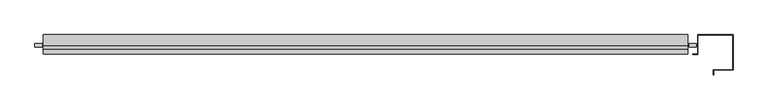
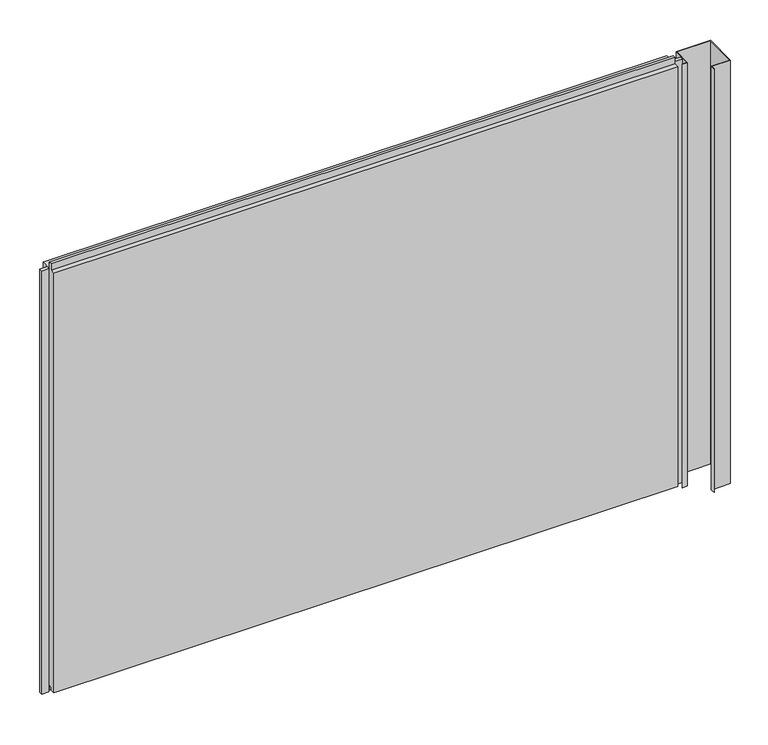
"""IFC4 building model written with IfcOpenShell, lengths in millimetres: plate geometry, Trimo_Qbiss Screen_Normal Panel-HORIZONTAL : HR - FB."""

import ifcopenshell
import ifcopenshell.guid

model = None  # the IFC model being written
_history = None  # IfcOwnerHistory: only IFC2X3 demands one
_inside = {}  # id of a spatial element -> (the spatial element, [elements in it])
_under = {}  # id of a project, library or spatial element -> (it, [spatial elements below it])
_declared = {}  # id of a project -> (the project, [libraries it declares])
_typed = {}  # id of a type object -> (the type object, [elements of that type])
_made_of = {}  # id of a material, layer set ... -> (it, [elements and type objects made of it])


def new_model(schema):
    """Start an empty IFC model of exactly this schema.

    Asked for "IFC4X3", IfcOpenShell would pick the latest addendum, in which some entities
    have other attributes; the version numbers below select the first issue.
    IFC2X3 requires an IfcOwnerHistory on every rooted entity: one is made here for all.
    """
    global model, _history
    if schema == "IFC4X3":
        model = ifcopenshell.file(schema_version=(4, 3, 0, 0))
    else:
        model = ifcopenshell.file(schema=schema)
    _inside.clear()
    _under.clear()
    _declared.clear()
    _typed.clear()
    _made_of.clear()
    _history = None
    if model.schema == "IFC2X3":
        org = make("IfcOrganization", Name="unknown")
        user = make(
            "IfcPersonAndOrganization",
            ThePerson=make("IfcPerson", FamilyName="unknown"),
            TheOrganization=org,
        )
        app = make(
            "IfcApplication",
            ApplicationDeveloper=org,
            Version="unknown",
            ApplicationFullName="unknown",
            ApplicationIdentifier="unknown",
        )
        _history = make(
            "IfcOwnerHistory",
            OwningUser=user,
            OwningApplication=app,
            ChangeAction="ADDED",
            CreationDate=0,
        )
    return model


def make(cls, **values):
    """One entity of the class cls with the attributes given. An attribute that is None is left unset."""
    return model.create_entity(
        cls, **{name: value for name, value in values.items() if value is not None}
    )


def rooted(cls, **values):
    """An entity with a GlobalId (a new one), such as an element, a storey or a relation."""
    return make(cls, GlobalId=ifcopenshell.guid.new(), OwnerHistory=_history, **values)


def si_unit(unit_type, name, prefix=None):
    """IfcSIUnit, for example si_unit("LENGTHUNIT", "METRE", prefix="MILLI")."""
    return make("IfcSIUnit", UnitType=unit_type, Prefix=prefix, Name=name)


def assignment(units):
    """IfcUnitAssignment: the units of a project."""
    return None if units is None else make("IfcUnitAssignment", Units=units)


def point(xyz):
    """IfcCartesianPoint."""
    return None if xyz is None else make("IfcCartesianPoint", Coordinates=xyz)


def direction(xyz):
    """IfcDirection."""
    return None if xyz is None else make("IfcDirection", DirectionRatios=xyz)


def frame(location, z_axis=None, x_axis=None):
    """IfcAxis2Placement3D, a coordinate frame: its origin and axes. An axis left out is left unset."""
    return make(
        "IfcAxis2Placement3D",
        Location=point(location),
        Axis=direction(z_axis),
        RefDirection=direction(x_axis),
    )


def origin():
    """The frame at (0, 0, 0) with its axes left unset."""
    return frame((0.0, 0.0, 0.0))


def place(relative_to, where):
    """IfcLocalPlacement: puts the frame where relative to a parent placement (None: the world)."""
    return make(
        "IfcLocalPlacement", PlacementRelTo=relative_to, RelativePlacement=where
    )


def context(
    kind, dimensions, precision=None, world=None, true_north=None, identifier=None
):
    """IfcGeometricRepresentationContext, for example the 3D "Model" context."""
    return make(
        "IfcGeometricRepresentationContext",
        ContextIdentifier=identifier,
        ContextType=kind,
        CoordinateSpaceDimension=dimensions,
        Precision=precision,
        WorldCoordinateSystem=world,
        TrueNorth=true_north,
    )


def project(units=None, contexts=None):
    """IfcProject with its units and contexts."""
    return rooted(
        "IfcProject",
        Name="project",
        RepresentationContexts=contexts,
        UnitsInContext=assignment(units),
    )


def spatial(cls, under=None, at=None, **own):
    """A site, building, storey or space (cls), placed at a placement, below another one or the project."""
    s = rooted(cls, ObjectPlacement=at, **own)
    if under is not None:
        _under.setdefault(under.id(), (under, []))[1].append(s)
    return s


def polyline(points):
    """IfcPolyline through the points."""
    return make("IfcPolyline", Points=[point(p) for p in points])


def outline(outer, holes=None, kind="AREA"):
    """IfcArbitraryClosedProfileDef: a profile drawn as a closed curve; with holes, ...WithVoids."""
    if holes is None:
        return make("IfcArbitraryClosedProfileDef", ProfileType=kind, OuterCurve=outer)
    return make(
        "IfcArbitraryProfileDefWithVoids",
        ProfileType=kind,
        OuterCurve=outer,
        InnerCurves=holes,
    )


def extrude(swept, where, along, depth):
    """IfcExtrudedAreaSolid: the profile swept, set in the frame where, extruded along a direction by depth."""
    return make(
        "IfcExtrudedAreaSolid",
        SweptArea=swept,
        Position=where,
        ExtrudedDirection=direction(along),
        Depth=depth,
    )


def shape(context_of_items, identifier, shape_type, items):
    """IfcShapeRepresentation: the items that make up one representation, for example the "Body"."""
    return make(
        "IfcShapeRepresentation",
        ContextOfItems=context_of_items,
        RepresentationIdentifier=identifier,
        RepresentationType=shape_type,
        Items=items,
    )


def source(mapping_origin, context_of_items, identifier, shape_type, items):
    """IfcRepresentationMap: a shape defined once, which mapped items show again and again."""
    return make(
        "IfcRepresentationMap",
        MappingOrigin=mapping_origin,
        MappedRepresentation=shape(context_of_items, identifier, shape_type, items),
    )


def transform(
    local_origin,
    x_axis=None,
    y_axis=None,
    z_axis=None,
    scale=None,
    scale2=None,
    scale3=None,
    uniform=True,
):
    """IfcCartesianTransformationOperator3D, or its non-uniform kind. x_axis, y_axis, z_axis: its Axis1, 2, 3."""
    if uniform:
        return make(
            "IfcCartesianTransformationOperator3D",
            Axis1=direction(x_axis),
            Axis2=direction(y_axis),
            LocalOrigin=point(local_origin),
            Scale=scale,
            Axis3=direction(z_axis),
        )
    return make(
        "IfcCartesianTransformationOperator3DnonUniform",
        Axis1=direction(x_axis),
        Axis2=direction(y_axis),
        LocalOrigin=point(local_origin),
        Scale=scale,
        Axis3=direction(z_axis),
        Scale2=scale2,
        Scale3=scale3,
    )


def mapped(mapping_source, mapping_target):
    """IfcMappedItem: shows the shape of a source again, moved by a transform."""
    return make(
        "IfcMappedItem", MappingSource=mapping_source, MappingTarget=mapping_target
    )


def made_of(thing, what):
    """Note that an element or type object is made of a material, layer set ...; save() writes the relation."""
    if what is not None:
        _made_of.setdefault(what.id(), (what, []))[1].append(thing)
    return thing


def element(
    cls,
    number,
    at=None,
    inside=None,
    cuts=None,
    type_object=None,
    material=None,
    context=None,
    identifier="Body",
    shape_type=None,
    held_by="IfcProductDefinitionShape",
    body=None,
    shapes=None,
    **own,
):
    """One element of the class cls, such as IfcWall. Its Tag is "e" and its number.

    at: its placement. inside: the storey or other place that contains it. cuts: it is an
    opening in that element (IfcRelVoidsElement). A single representation is given by context,
    identifier, shape_type and body (its items); several are given by shapes. held_by: the class
    of the entity that holds the representations. save() writes the other relations.
    """
    e = rooted(cls, Tag="e%d" % number, ObjectPlacement=at, **own)
    if body is not None:
        shapes = [shape(context, identifier, shape_type, body)]
    if shapes is not None:
        e.Representation = make(held_by, Representations=shapes)
    if inside is not None:
        _inside.setdefault(inside.id(), (inside, []))[1].append(e)
    if cuts is not None:
        rooted(
            "IfcRelVoidsElement", RelatingBuildingElement=cuts, RelatedOpeningElement=e
        )
    if type_object is not None:
        _typed.setdefault(type_object.id(), (type_object, []))[1].append(e)
    return made_of(e, material)


def aggregate(whole, parts):
    """IfcRelAggregates: a whole, such as a stair, and the parts it consists of."""
    return rooted("IfcRelAggregates", RelatingObject=whole, RelatedObjects=parts)


def save(model, path):
    """Write the relations noted so far, then the file.

    IfcRelAggregates (storeys below a building ...), IfcRelContainedInSpatialStructure (elements
    in a storey), IfcRelDefinesByType, IfcRelAssociatesMaterial and IfcRelDeclares: one each for
    every whole, place, type object, material and project.
    """
    for whole, parts in _under.values():
        aggregate(whole, parts)
    for where, things in _inside.values():
        rooted(
            "IfcRelContainedInSpatialStructure",
            RelatedElements=things,
            RelatingStructure=where,
        )
    for kind, things in _typed.values():
        rooted("IfcRelDefinesByType", RelatedObjects=things, RelatingType=kind)
    for what, things in _made_of.values():
        rooted("IfcRelAssociatesMaterial", RelatedObjects=things, RelatingMaterial=what)
    for by, libraries in _declared.values():
        rooted("IfcRelDeclares", RelatingContext=by, RelatedDefinitions=libraries)
    model.write(path)


def plate_c9eeb902(model_context):
    return source(origin(), model_context, "Body", "SweptSolid", [
        extrude(outline(polyline([(-840.5, 76.5978162), (-840.5, 67.8978162), (-859.5, 67.8978162), (-859.5, 76.5978162), (-840.5, 76.5978162)])), frame((0.0, 0.0, -1.0), z_axis=(0.0, 0.0, 1.0), x_axis=(1.0, 0.0, 0.0)), (0.0, 0.0, 1.0), 1200.0),
        extrude(outline(polyline([(836.0, 67.8978162), (836.0, 76.5978162), (855.0, 76.5978162), (855.0, 67.8978162), (836.0, 67.8978162)])), frame((0.0, 0.0, -1.0), z_axis=(0.0, 0.0, 1.0), x_axis=(1.0, 0.0, 0.0)), (0.0, 0.0, 1.0), 1200.0),
        extrude(outline(polyline([(71.0, 1196.0), (100.0, 1196.0), (100.0, 0.0), (72.0, 0.0), (72.0, 15.5), (62.0, 15.5), (62.0, 7.0), (50.0, 7.0), (50.0, 1196.0), (63.0, 1196.0), (63.0, 1214.5), (71.0, 1214.5), (71.0, 1196.0)])), frame((-837.5, 0.0, 0.0), z_axis=(1.0, 0.0, 0.0), x_axis=(0.0, 1.0, 0.0)), (0.0, 0.0, 1.0), 1670.5),
        extrude(outline(polyline([(858.0, 50.0), (858.0, 100.0), (950.0, 100.0), (950.0, 8.0), (900.0, 8.0), (900.0, -4.5), (899.2, -4.5), (899.2, 8.8), (949.2, 8.8), (949.2, 99.2), (858.8, 99.2), (858.8, 49.1823429), (845.5, 49.1823429), (845.5, 50.0), (858.0, 50.0)])), frame((0.0, 0.0, -1.0), z_axis=(0.0, 0.0, 1.0), x_axis=(1.0, 0.0, 0.0)), (0.0, 0.0, 1.0), 1200.0),
    ])


if __name__ == "__main__":
    model = new_model("IFC4")
    model_context = context("Model", 3, world=origin())
    ifc_project = project(units=[si_unit("LENGTHUNIT", "METRE", prefix="MILLI")], contexts=[model_context])
    site = spatial("IfcSite", under=ifc_project)
    building = spatial("IfcBuilding", under=site)
    placement = place(None, origin())
    plate_shape = plate_c9eeb902(model_context)
    element("IfcPlate", 1, ObjectType="Trimo_Qbiss Screen_Normal Panel-HORIZONTAL : HR - FB", at=placement, inside=building, context=model_context, shape_type="MappedRepresentation", body=[
        mapped(plate_shape, transform((0.0, 0.0, 0.0), x_axis=(1.0, 0.0, 0.0), y_axis=(0.0, 1.0, 0.0), z_axis=(0.0, 0.0, 1.0))),
    ])
    save(model, "model.ifc")
